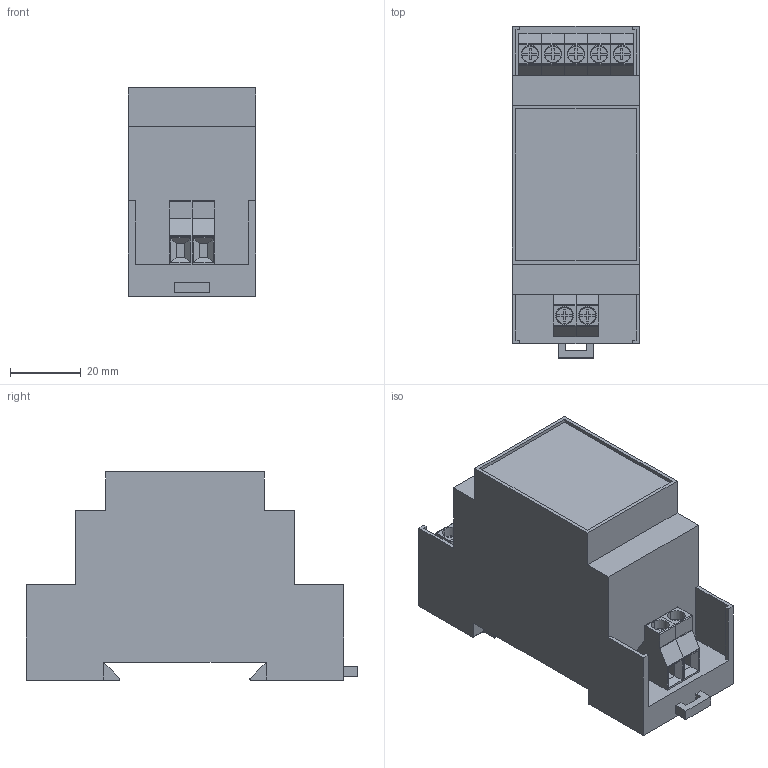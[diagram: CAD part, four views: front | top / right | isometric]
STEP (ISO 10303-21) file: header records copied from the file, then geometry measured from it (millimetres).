
FILE_DESCRIPTION (( 'STEP AP203' ), '1' );
FILE_NAME ('NF-1ph-DIN1.STEP', '2014-12-17T10:12:30', ( 'Owner' ), ( 'EPA' ), 'SwSTEP 2.0', 'SolidWorks 2007', '' );
FILE_SCHEMA (( 'CONFIG_CONTROL_DESIGN' ));
Length unit declared in the file: millimetre
Products named in the file (3): PCB terminal for DIN case; NF-1ph-DIN1
Assembly tree (8 placements, depth 2):
  NF-1ph-DIN1
    PCB terminal for DIN case  x7
    NF-1ph-DIN1
Bounding box: 36 x 94 x 59 mm (x, y, z)
Volume: 132213.7 mm3; surface area: 27121.1 mm2
Topology: 8 solids, 8 shells, 389 faces, 977 edges, 640 vertices
Faces by surface type: plane 290, cylinder 99
Entity records: 3956 total; most frequent: CARTESIAN_POINT 619, ORIENTED_EDGE 598, DIRECTION 589, EDGE_CURVE 299, VECTOR 257, LINE 257, VERTEX_POINT 196, AXIS2_PLACEMENT_3D 166
